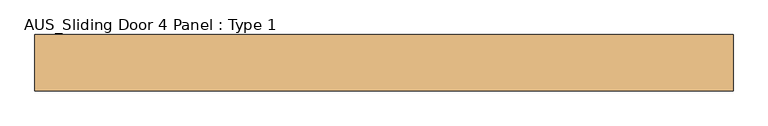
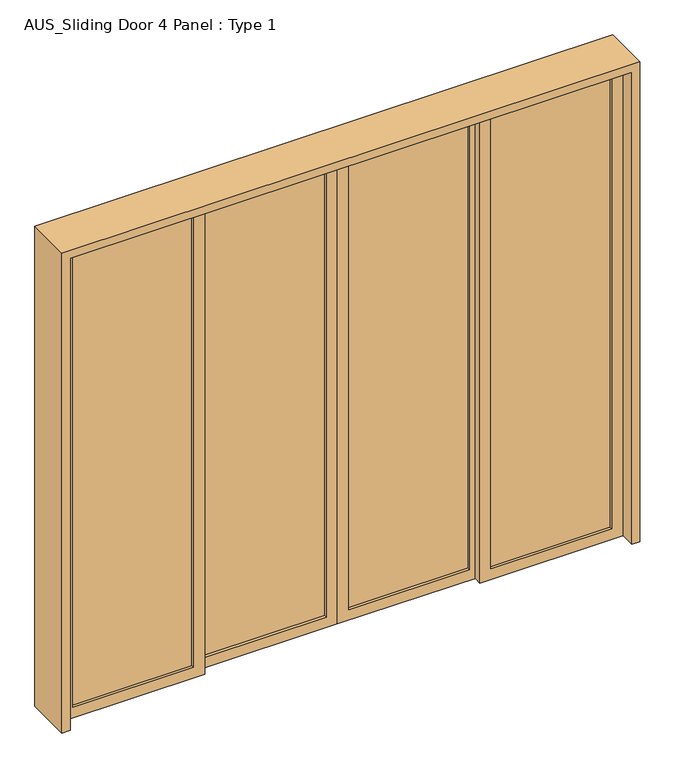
"""IFC4 building model written with IfcOpenShell, lengths in millimetres: door geometry, AUS_Sliding Door 4 Panel : Type 1."""

from ifc_helpers import new_model, si_unit, frame, origin, place, context, project, spatial, polyline, outline, extrude, source, transform, mapped, element, save


def aus_sliding_door_4_panel_type_1_5477eb1e(model_context):
    return source(origin(), model_context, "Body", "SweptSolid", [
        extrude(outline(polyline([(0.0, 1457.3580012), (2438.4, 1457.3580012), (2438.4, 757.8080012), (0.0, 757.8080012), (0.0, 1457.3580012)]), holes=[polyline([(55.0, 1402.3580012), (55.0, 812.8080012), (2383.4, 812.8080012), (2383.4, 1402.3580012), (55.0, 1402.3580012)])]), frame((0.0, -40.0, 0.0), z_axis=(0.0, 1.0, 0.0), x_axis=(0.0, 0.0, 1.0)), (0.0, 0.0, 1.0), 40.0),
        extrude(outline(polyline([(1402.3580012, -13.3333333), (1402.3580012, -26.6666667), (812.8080012, -26.6666667), (812.8080012, -13.3333333), (1402.3580012, -13.3333333)])), frame((0.0, 0.0, 55.0), z_axis=(0.0, 0.0, 1.0), x_axis=(1.0, 0.0, 0.0)), (0.0, 0.0, 1.0), 2328.4),
        extrude(outline(polyline([(0.0, 785.3080012), (2438.4, 785.3080012), (2438.4, 85.7580012), (0.0, 85.7580012), (0.0, 785.3080012)]), holes=[polyline([(55.0, 730.3080012), (55.0, 140.7580012), (2383.4, 140.7580012), (2383.4, 730.3080012), (55.0, 730.3080012)])]), frame((0.0, 0.0, 0.0), z_axis=(0.0, 1.0, 0.0), x_axis=(0.0, 0.0, 1.0)), (0.0, 0.0, 1.0), 40.0),
        extrude(outline(polyline([(730.3080012, 26.6666667), (730.3080012, 13.3333333), (140.7580012, 13.3333333), (140.7580012, 26.6666667), (730.3080012, 26.6666667)])), frame((0.0, 0.0, 55.0), z_axis=(0.0, 0.0, 1.0), x_axis=(1.0, 0.0, 0.0)), (0.0, 0.0, 1.0), 2328.4),
        extrude(outline(polyline([(0.0, 85.7580012), (2438.4, 85.7580012), (2438.4, -613.7919988), (0.0, -613.7919988), (0.0, 85.7580012)]), holes=[polyline([(55.0, 30.7580012), (55.0, -558.7919988), (2383.4, -558.7919988), (2383.4, 30.7580012), (55.0, 30.7580012)])]), frame((0.0, 0.0, 0.0), z_axis=(0.0, 1.0, 0.0), x_axis=(0.0, 0.0, 1.0)), (0.0, 0.0, 1.0), 40.0),
        extrude(outline(polyline([(30.7580012, 26.6666667), (30.7580012, 13.3333333), (-558.7919988, 13.3333333), (-558.7919988, 26.6666667), (30.7580012, 26.6666667)])), frame((0.0, 0.0, 55.0), z_axis=(0.0, 0.0, 1.0), x_axis=(1.0, 0.0, 0.0)), (0.0, 0.0, 1.0), 2328.4),
        extrude(outline(polyline([(0.0, -586.2919988), (2438.4, -586.2919988), (2438.4, -1285.8419988), (0.0, -1285.8419988), (0.0, -586.2919988)]), holes=[polyline([(55.0, -641.2919988), (55.0, -1230.8419988), (2383.4, -1230.8419988), (2383.4, -641.2919988), (55.0, -641.2919988)])]), frame((0.0, -40.0, 0.0), z_axis=(0.0, 1.0, 0.0), x_axis=(0.0, 0.0, 1.0)), (0.0, 0.0, 1.0), 40.0),
        extrude(outline(polyline([(-641.2919988, -13.3333333), (-641.2919988, -26.6666667), (-1230.8419988, -26.6666667), (-1230.8419988, -13.3333333), (-641.2919988, -13.3333333)])), frame((0.0, 0.0, 55.0), z_axis=(0.0, 0.0, 1.0), x_axis=(1.0, 0.0, 0.0)), (0.0, 0.0, 1.0), 2328.4),
        extrude(outline(polyline([(0.0, -1325.8419988), (0.0, -1285.8419988), (2438.4, -1285.8419988), (2438.4, 1457.3580012), (0.0, 1457.3580012), (0.0, 1497.3580012), (2478.4, 1497.3580012), (2478.4, -1325.8419988), (0.0, -1325.8419988)])), frame((0.0, -114.3, 0.0), z_axis=(0.0, 1.0, 0.0), x_axis=(0.0, 0.0, 1.0)), (0.0, 0.0, 1.0), 228.6),
    ])


if __name__ == "__main__":
    model = new_model("IFC4")
    model_context = context("Model", 3, world=origin())
    ifc_project = project(units=[si_unit("LENGTHUNIT", "METRE", prefix="MILLI")], contexts=[model_context])
    site = spatial("IfcSite", under=ifc_project)
    building = spatial("IfcBuilding", under=site)
    placement = place(None, origin())
    aus_sliding_door_4_panel_type_1_shape = aus_sliding_door_4_panel_type_1_5477eb1e(model_context)
    element("IfcDoor", 1, ObjectType="AUS_Sliding Door 4 Panel : Type 1", at=placement, inside=building, context=model_context, shape_type="MappedRepresentation", body=[
        mapped(aus_sliding_door_4_panel_type_1_shape, transform((0.0, 0.0, 0.0), x_axis=(1.0, 0.0, 0.0), y_axis=(0.0, 1.0, 0.0), z_axis=(0.0, 0.0, 1.0))),
    ])
    save(model, "model.ifc")
